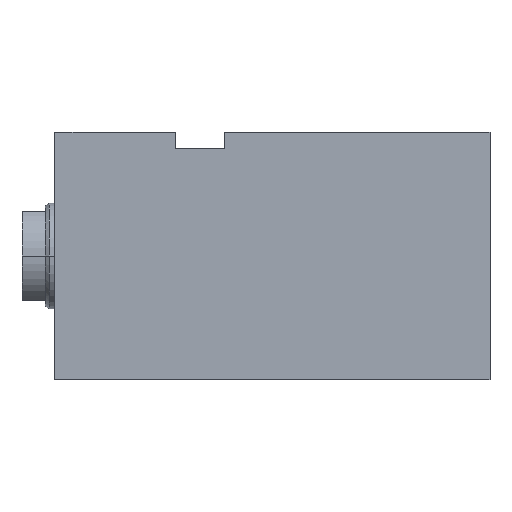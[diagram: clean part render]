
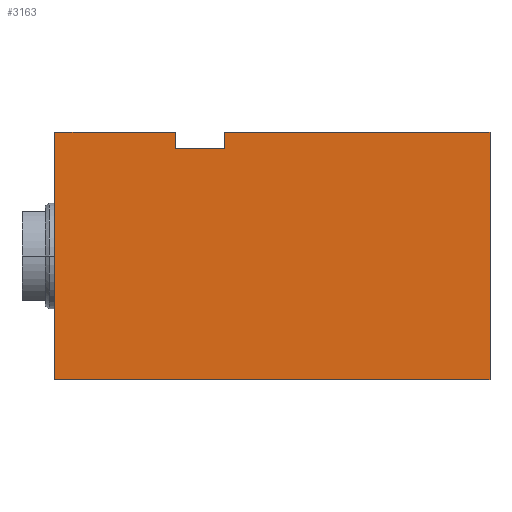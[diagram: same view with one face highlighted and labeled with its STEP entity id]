
A CAD part, left-side view. The second image highlights one B-rep face of the part: STEP entity #3163.
In plain terms, the highlighted planar face has unit normal (-1, 0, 0).
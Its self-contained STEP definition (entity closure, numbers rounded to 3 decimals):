
#12 = VERTEX_POINT ( 'NONE', #1605 ) ;
#86 = VECTOR ( 'NONE', #2206, 1000. ) ;
#93 = VERTEX_POINT ( 'NONE', #1759 ) ;
#123 = VERTEX_POINT ( 'NONE', #1836 ) ;
#211 = EDGE_LOOP ( 'NONE', ( #1487, #765, #2101, #1408, #3207, #2650, #2023, #3142 ) ) ;
#346 = CARTESIAN_POINT ( 'NONE',  ( -50., 82., -37.5 ) ) ;
#370 = DIRECTION ( 'NONE',  ( 0., -1., 0. ) ) ;
#431 = EDGE_CURVE ( 'NONE', #93, #2351, #3222, .T. ) ;
#474 = CARTESIAN_POINT ( 'NONE',  ( -50., 95.5, 32.5 ) ) ;
#520 = LINE ( 'NONE', #1917, #1952 ) ;
#636 = CARTESIAN_POINT ( 'NONE',  ( -50., 95.5, 32.5 ) ) ;
#637 = DIRECTION ( 'NONE',  ( 0., -1., 0. ) ) ;
#661 = EDGE_CURVE ( 'NONE', #1367, #12, #2822, .T. ) ;
#676 = CARTESIAN_POINT ( 'NONE',  ( -50., 82., 37.5 ) ) ;
#692 = LINE ( 'NONE', #474, #1421 ) ;
#711 = EDGE_CURVE ( 'NONE', #1042, #1641, #2629, .T. ) ;
#765 = ORIENTED_EDGE ( 'NONE', *, *, #661, .F. ) ;
#804 = CARTESIAN_POINT ( 'NONE',  ( -50., 95.5, 37.5 ) ) ;
#915 = PLANE ( 'NONE',  #2581 ) ;
#929 = CARTESIAN_POINT ( 'NONE',  ( -50., 0., -37.5 ) ) ;
#951 = DIRECTION ( 'NONE',  ( 0., 0., 1. ) ) ;
#979 = DIRECTION ( 'NONE',  ( 0., 0., 1. ) ) ;
#997 = EDGE_CURVE ( 'NONE', #12, #2351, #520, .T. ) ;
#1042 = VERTEX_POINT ( 'NONE', #2580 ) ;
#1077 = CARTESIAN_POINT ( 'NONE',  ( -50., 80.5, 32.5 ) ) ;
#1174 = LINE ( 'NONE', #676, #3012 ) ;
#1305 = VECTOR ( 'NONE', #951, 1000. ) ;
#1367 = VERTEX_POINT ( 'NONE', #1077 ) ;
#1386 = DIRECTION ( 'NONE',  ( 0., 0., 1. ) ) ;
#1390 = EDGE_CURVE ( 'NONE', #2174, #123, #2691, .T. ) ;
#1408 = ORIENTED_EDGE ( 'NONE', *, *, #711, .T. ) ;
#1417 = CARTESIAN_POINT ( 'NONE',  ( -50., 80.5, 32.5 ) ) ;
#1421 = VECTOR ( 'NONE', #370, 1000. ) ;
#1487 = ORIENTED_EDGE ( 'NONE', *, *, #997, .F. ) ;
#1548 = CARTESIAN_POINT ( 'NONE',  ( -50., 82., -37.5 ) ) ;
#1605 = CARTESIAN_POINT ( 'NONE',  ( -50., 80.5, 37.5 ) ) ;
#1613 = CARTESIAN_POINT ( 'NONE',  ( -50., 132., -37.5 ) ) ;
#1641 = VERTEX_POINT ( 'NONE', #804 ) ;
#1723 = DIRECTION ( 'NONE',  ( 0., 0., -1. ) ) ;
#1759 = CARTESIAN_POINT ( 'NONE',  ( -50., 0., -37.5 ) ) ;
#1836 = CARTESIAN_POINT ( 'NONE',  ( -50., 132., 37.5 ) ) ;
#1917 = CARTESIAN_POINT ( 'NONE',  ( -50., 82., 37.5 ) ) ;
#1929 = DIRECTION ( 'NONE',  ( 0., -1., 0. ) ) ;
#1952 = VECTOR ( 'NONE', #1929, 1000. ) ;
#2023 = ORIENTED_EDGE ( 'NONE', *, *, #2150, .T. ) ;
#2027 = VECTOR ( 'NONE', #2802, 1000. ) ;
#2101 = ORIENTED_EDGE ( 'NONE', *, *, #2570, .F. ) ;
#2150 = EDGE_CURVE ( 'NONE', #2174, #93, #2652, .T. ) ;
#2174 = VERTEX_POINT ( 'NONE', #3002 ) ;
#2206 = DIRECTION ( 'NONE',  ( 0., 0., 1. ) ) ;
#2351 = VERTEX_POINT ( 'NONE', #2728 ) ;
#2570 = EDGE_CURVE ( 'NONE', #1042, #1367, #692, .T. ) ;
#2580 = CARTESIAN_POINT ( 'NONE',  ( -50., 95.5, 32.5 ) ) ;
#2581 = AXIS2_PLACEMENT_3D ( 'NONE', #346, #3098, #1723 ) ;
#2609 = EDGE_CURVE ( 'NONE', #123, #1641, #1174, .T. ) ;
#2620 = VECTOR ( 'NONE', #1386, 1000. ) ;
#2629 = LINE ( 'NONE', #636, #1305 ) ;
#2650 = ORIENTED_EDGE ( 'NONE', *, *, #1390, .F. ) ;
#2652 = LINE ( 'NONE', #1548, #2027 ) ;
#2666 = VECTOR ( 'NONE', #979, 1000. ) ;
#2691 = LINE ( 'NONE', #1613, #2620 ) ;
#2728 = CARTESIAN_POINT ( 'NONE',  ( -50., 0., 37.5 ) ) ;
#2802 = DIRECTION ( 'NONE',  ( 0., -1., 0. ) ) ;
#2822 = LINE ( 'NONE', #1417, #86 ) ;
#3002 = CARTESIAN_POINT ( 'NONE',  ( -50., 132., -37.5 ) ) ;
#3012 = VECTOR ( 'NONE', #637, 1000. ) ;
#3098 = DIRECTION ( 'NONE',  ( 1., 0., 0. ) ) ;
#3127 = FACE_OUTER_BOUND ( 'NONE', #211, .T. ) ;
#3142 = ORIENTED_EDGE ( 'NONE', *, *, #431, .T. ) ;
#3163 = ADVANCED_FACE ( 'NONE', ( #3127 ), #915, .F. ) ;
#3207 = ORIENTED_EDGE ( 'NONE', *, *, #2609, .F. ) ;
#3222 = LINE ( 'NONE', #929, #2666 ) ;
